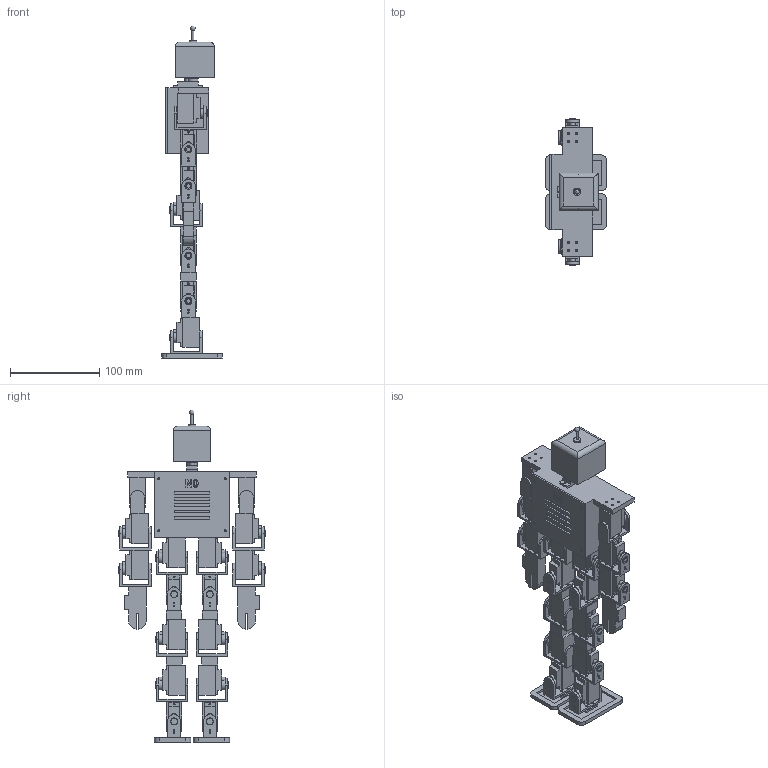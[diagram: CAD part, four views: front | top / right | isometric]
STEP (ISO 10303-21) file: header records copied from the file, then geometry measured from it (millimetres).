
FILE_DESCRIPTION(('FreeCAD Model'),'2;1');
FILE_NAME('Open CASCADE Shape Model','2026-11-15T00:53:48',('FreeCAD'),( 'FreeCAD'),'Open CASCADE STEP processor 7.8','FreeCAD','Unknown');
FILE_SCHEMA(('AUTOMOTIVE_DESIGN { 1 0 10303 214 1 1 1 1 }'));
Length unit declared in the file: millimetre
Products named in the file (1): Open CASCADE STEP translator 7.8 15
Bounding box: 68 x 163.6 x 371.35 mm (x, y, z)
Volume: 427516.4 mm3; surface area: 273623.1 mm2
Topology: 79 solids, 79 shells, 1745 faces, 4386 edges, 2952 vertices
Faces by surface type: plane 1177, cylinder 547, extrusion 20, sphere 1
Full cylindrical faces by diameter (mm): 1 x34, 1.6 x156, 2 x34, 2.3 x96, 2.4 x1, 4.4 x4, 4.8 x17, 5 x16, 5.4 x16, 6 x1, 6.4 x1, 7.4 x17, 7.9 x17, 8.4 x1
Entity records: 53630 total; most frequent: CARTESIAN_POINT 9434, DIRECTION 9101, ORIENTED_EDGE 8770, EDGE_CURVE 4385, VECTOR 3081, LINE 3061, AXIS2_PLACEMENT_3D 3010, VERTEX_POINT 2952
